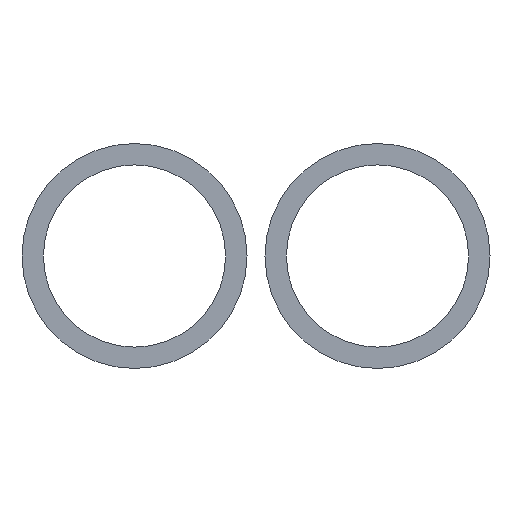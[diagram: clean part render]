
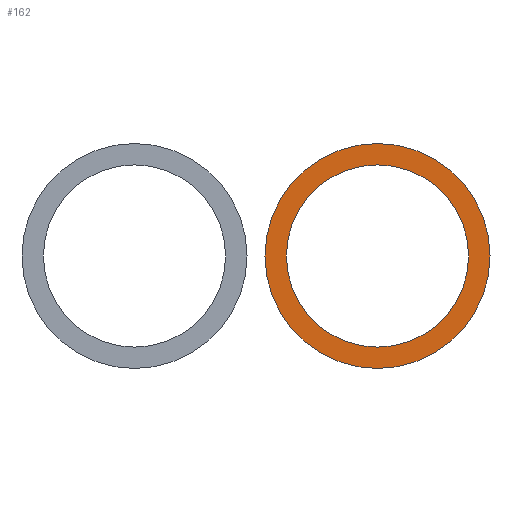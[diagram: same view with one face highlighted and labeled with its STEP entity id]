
A CAD part, left-side view. The second image highlights one B-rep face of the part: STEP entity #162.
In plain terms, the highlighted planar face has unit normal (-1, 0, 0) as drawn and (0, 0, -1) by its records, which use the part's own axes.
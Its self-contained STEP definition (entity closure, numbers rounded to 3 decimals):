
#53 = CYLINDRICAL_SURFACE('',#54,10.);
#54 = AXIS2_PLACEMENT_3D('',#55,#56,#57);
#55 = CARTESIAN_POINT('',(0.,0.,-0.55));
#56 = DIRECTION('',(0.,0.,1.));
#57 = DIRECTION('',(1.,0.,0.));
#78 = VERTEX_POINT('',#79);
#79 = CARTESIAN_POINT('',(10.,0.,-0.55));
#100 = EDGE_CURVE('',#78,#78,#101,.T.);
#101 = SURFACE_CURVE('',#102,(#107,#114),.PCURVE_S1.);
#102 = CIRCLE('',#103,10.);
#103 = AXIS2_PLACEMENT_3D('',#104,#105,#106);
#104 = CARTESIAN_POINT('',(0.,0.,-0.55));
#105 = DIRECTION('',(0.,0.,1.));
#106 = DIRECTION('',(1.,0.,0.));
#107 = PCURVE('',#53,#108);
#108 = DEFINITIONAL_REPRESENTATION('',(#109),#113);
#109 = LINE('',#110,#111);
#110 = CARTESIAN_POINT('',(0.,0.));
#111 = VECTOR('',#112,1.);
#112 = DIRECTION('',(1.,0.));
#113 = ( GEOMETRIC_REPRESENTATION_CONTEXT(2) 
PARAMETRIC_REPRESENTATION_CONTEXT() REPRESENTATION_CONTEXT('2D SPACE',''
  ) );
#114 = PCURVE('',#115,#120);
#115 = PLANE('',#116);
#116 = AXIS2_PLACEMENT_3D('',#117,#118,#119);
#117 = CARTESIAN_POINT('',(0.,0.,-0.55));
#118 = DIRECTION('',(0.,0.,1.));
#119 = DIRECTION('',(1.,0.,0.));
#120 = DEFINITIONAL_REPRESENTATION('',(#121),#125);
#121 = CIRCLE('',#122,10.);
#122 = AXIS2_PLACEMENT_2D('',#123,#124);
#123 = CARTESIAN_POINT('',(0.,0.));
#124 = DIRECTION('',(1.,0.));
#125 = ( GEOMETRIC_REPRESENTATION_CONTEXT(2) 
PARAMETRIC_REPRESENTATION_CONTEXT() REPRESENTATION_CONTEXT('2D SPACE',''
  ) );
#151 = CYLINDRICAL_SURFACE('',#152,8.1);
#152 = AXIS2_PLACEMENT_3D('',#153,#154,#155);
#153 = CARTESIAN_POINT('',(0.,0.,-1.55));
#154 = DIRECTION('',(0.,0.,1.));
#155 = DIRECTION('',(1.,0.,0.));
#162 = ADVANCED_FACE('',(#163,#166),#115,.F.);
#163 = FACE_BOUND('',#164,.F.);
#164 = EDGE_LOOP('',(#165));
#165 = ORIENTED_EDGE('',*,*,#100,.T.);
#166 = FACE_BOUND('',#167,.F.);
#167 = EDGE_LOOP('',(#168));
#168 = ORIENTED_EDGE('',*,*,#169,.F.);
#169 = EDGE_CURVE('',#170,#170,#172,.T.);
#170 = VERTEX_POINT('',#171);
#171 = CARTESIAN_POINT('',(8.1,0.,-0.55));
#172 = SURFACE_CURVE('',#173,(#178,#185),.PCURVE_S1.);
#173 = CIRCLE('',#174,8.1);
#174 = AXIS2_PLACEMENT_3D('',#175,#176,#177);
#175 = CARTESIAN_POINT('',(0.,0.,-0.55));
#176 = DIRECTION('',(0.,0.,1.));
#177 = DIRECTION('',(1.,0.,0.));
#178 = PCURVE('',#115,#179);
#179 = DEFINITIONAL_REPRESENTATION('',(#180),#184);
#180 = CIRCLE('',#181,8.1);
#181 = AXIS2_PLACEMENT_2D('',#182,#183);
#182 = CARTESIAN_POINT('',(0.,0.));
#183 = DIRECTION('',(1.,0.));
#184 = ( GEOMETRIC_REPRESENTATION_CONTEXT(2) 
PARAMETRIC_REPRESENTATION_CONTEXT() REPRESENTATION_CONTEXT('2D SPACE',''
  ) );
#185 = PCURVE('',#151,#186);
#186 = DEFINITIONAL_REPRESENTATION('',(#187),#191);
#187 = LINE('',#188,#189);
#188 = CARTESIAN_POINT('',(0.,1.));
#189 = VECTOR('',#190,1.);
#190 = DIRECTION('',(1.,0.));
#191 = ( GEOMETRIC_REPRESENTATION_CONTEXT(2) 
PARAMETRIC_REPRESENTATION_CONTEXT() REPRESENTATION_CONTEXT('2D SPACE',''
  ) );
